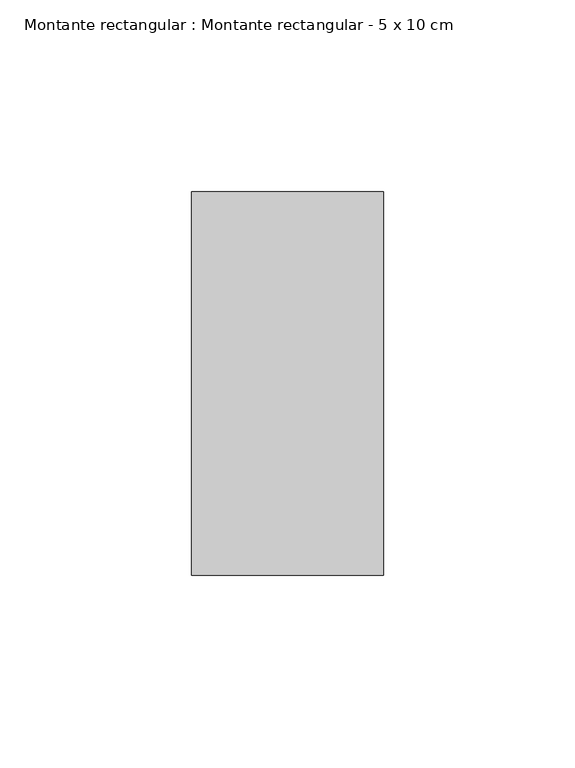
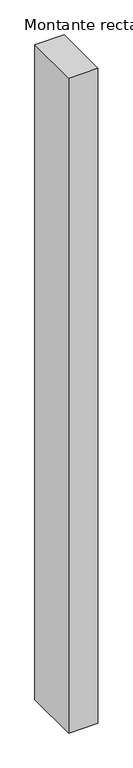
"""IFC4 building model written with IfcOpenShell, lengths in millimetres: member geometry, Montante rectangular : Montante rectangular - 5 x 10 cm."""

from ifc_helpers import new_model, si_unit, frame, origin, place, context, project, spatial, polyline, outline, extrude, source, transform, mapped, element, save


def montante_rectangular_montante_rectangular_5_x_10_cm_273fa60d(model_context):
    return source(origin(), model_context, "Body", "SweptSolid", [
        extrude(outline(polyline([(0.0, 50.0), (0.0, -50.0), (-50.0, -50.0), (-50.0, 50.0), (0.0, 50.0)])), frame((0.0, 0.0, -1185.0), z_axis=(0.0, 0.0, 1.0), x_axis=(1.0, 0.0, 0.0)), (0.0, 0.0, 1.0), 1185.0),
    ])


if __name__ == "__main__":
    model = new_model("IFC4")
    model_context = context("Model", 3, world=origin())
    ifc_project = project(units=[si_unit("LENGTHUNIT", "METRE", prefix="MILLI")], contexts=[model_context])
    site = spatial("IfcSite", under=ifc_project)
    building = spatial("IfcBuilding", under=site)
    placement = place(None, origin())
    montante_rectangular_montante_rectangular_5_x_10_cm_shape = montante_rectangular_montante_rectangular_5_x_10_cm_273fa60d(model_context)
    element("IfcMember", 1, ObjectType="Montante rectangular : Montante rectangular - 5 x 10 cm", at=placement, inside=building, context=model_context, shape_type="MappedRepresentation", body=[
        mapped(montante_rectangular_montante_rectangular_5_x_10_cm_shape, transform((0.0, 0.0, 0.0), x_axis=(1.0, 0.0, 0.0), y_axis=(0.0, 1.0, 0.0), z_axis=(0.0, 0.0, 1.0))),
    ])
    save(model, "model.ifc")
